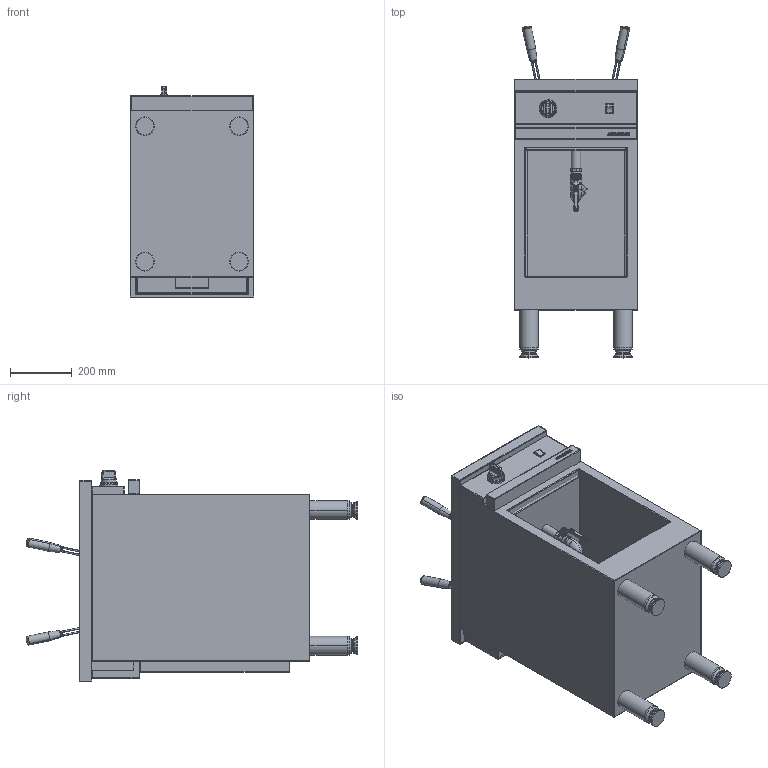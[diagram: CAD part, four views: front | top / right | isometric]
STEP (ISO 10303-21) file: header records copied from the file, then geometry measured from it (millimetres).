
FILE_DESCRIPTION((''),'2;1');
FILE_NAME('CME410CP_EXPORT_STEP_ASM','2017-11-22T',('r.avril'),(''),'PRO/ENGINEER BY PARAMETRIC TECHNOLOGY CORPORATION, 2014200','PRO/ENGINEER BY PARAMETRIC TECHNOLOGY CORPORATION, 2014200','');
FILE_SCHEMA(('AP203_CONFIGURATION_CONTROLLED_3D_DESIGN_OF_MECHANICAL_PARTS_AND_ASSEMBLIES_MIM_LF { 1 0 10303 403 2 1 2 }'));
Products named in the file (11): MODULES_AMB_400_EXPORT_STEP; TABLE_410_CP; 65023003; VANNE_65101006; MANETTE_65101006; 65412003; 65101006_ASM; TABLE_410_CP_ASM; MANETTE_AMB_EXPORT_STEP; BASCULEUR_AMB_EXPORT_DXF; CME410CP_EXPORT_STEP_ASM
Assembly tree (13 placements, depth 4):
  CME410CP_EXPORT_STEP_ASM
    MODULES_AMB_400_EXPORT_STEP
    TABLE_410_CP_ASM
      TABLE_410_CP
      65023003  x4
      65101006_ASM
        VANNE_65101006
        MANETTE_65101006
        65412003
    MANETTE_AMB_EXPORT_STEP
    BASCULEUR_AMB_EXPORT_DXF
Bounding box: 400 x 1072.02 x 682.5 mm (x, y, z)
Volume: 51732371 mm3; surface area: 6629782.5 mm2
Topology: 23 solids, 42 shells, 2652 faces, 7085 edges, 4996 vertices
Faces by surface type: plane 1397, cylinder 887, torus 170, bspline 72, sphere 70, cone 56
Entity records: 97238 total; most frequent: CARTESIAN_POINT 20071, DIRECTION 12923, ORIENTED_EDGE 12318, EDGE_CURVE 6384, AXIS2_PLACEMENT_3D 4514, VERTEX_POINT 4238, VECTOR 3862, LINE 3862
